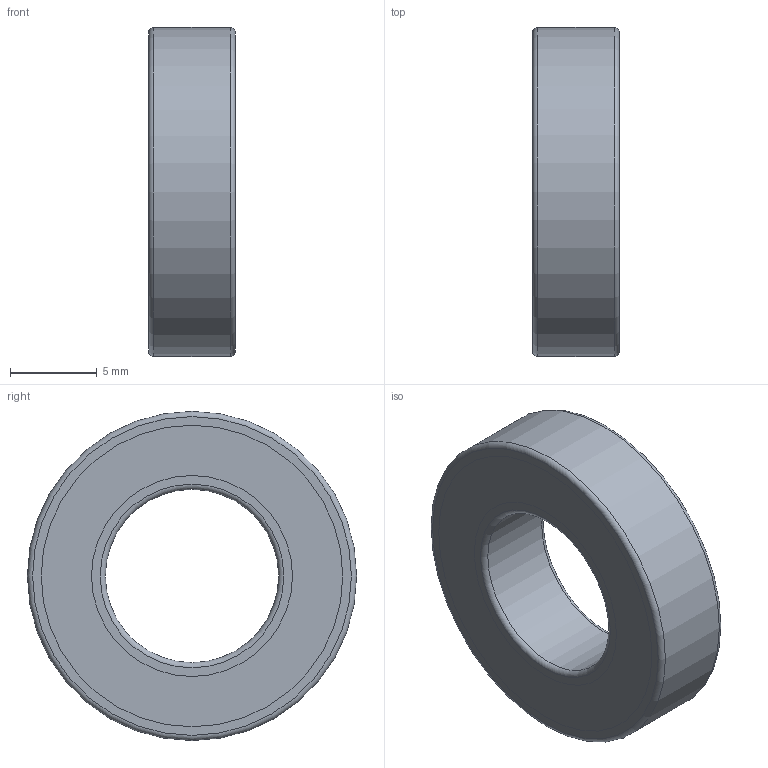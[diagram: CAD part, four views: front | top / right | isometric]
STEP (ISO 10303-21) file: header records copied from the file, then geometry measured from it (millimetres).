
FILE_DESCRIPTION(/* description */ (''),/* implementation_level */ '2;1');
FILE_NAME(/* name */ 'D:\moje\parametrické\618--\rada618-2RS,Z\618----2RS\61800-2RS.stp',/* time_stamp */ '2016-04-04T14:25:40+02:00',/* author */ ('OUBALASKO'),/* organization */ (''),/* preprocessor_version */ 'ST-DEVELOPER v15.2',/* originating_system */ 'Autodesk Inventor 2014',/* authorisation */ '');
FILE_SCHEMA (('AUTOMOTIVE_DESIGN { 1 0 10303 214 3 1 1 }'));
Length unit declared in the file: millimetre
Products named in the file (6): 61800-02-2RS; 61800-ball; 61800-cage; 61800-01-2RS; 61800-seal-2RS,Z; 61800-2RS
Bounding box: 5 x 19 x 19 mm (x, y, z)
Volume: 748.5 mm3; surface area: 2173.8 mm2
Topology: 18 solids, 18 shells, 144 faces, 528 edges, 348 vertices
Faces by surface type: plane 60, sphere 60, cylinder 18, torus 6
Full cylindrical faces by diameter (mm): 10 x1, 11.595 x4, 12.595 x2, 13.786 x2, 15.214 x2, 16.405 x2, 17.405 x4, 19 x1
Entity records: 3344 total; most frequent: CARTESIAN_POINT 1314, DIRECTION 456, ORIENTED_EDGE 346, AXIS2_PLACEMENT_3D 228, EDGE_CURVE 173, VERTEX_POINT 126, CIRCLE 125, EDGE_LOOP 109
